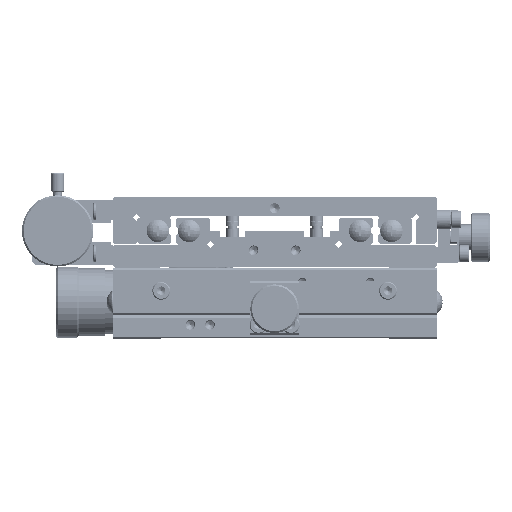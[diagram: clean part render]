
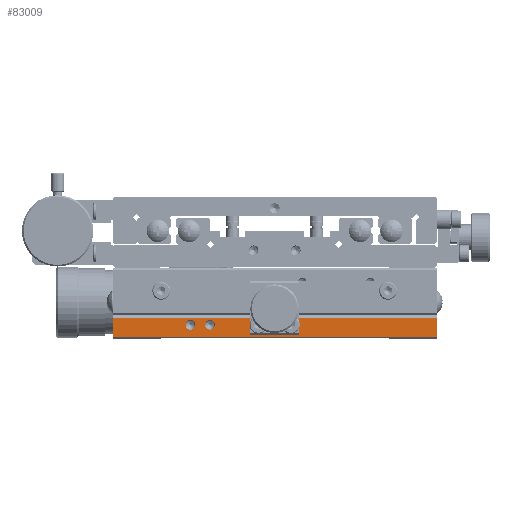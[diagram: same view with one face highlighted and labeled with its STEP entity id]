
A CAD part, left-side view. The second image highlights one B-rep face of the part: STEP entity #83009.
In plain terms, the highlighted planar face has unit normal (-1, 0, 0).
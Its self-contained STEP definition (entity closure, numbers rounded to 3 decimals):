
#965 = VERTEX_POINT ( 'NONE', #96711 ) ;
#969 = EDGE_CURVE ( 'NONE', #965, #970, #96710, .T. ) ;
#970 = VERTEX_POINT ( 'NONE', #96659 ) ;
#1372 = VERTEX_POINT ( 'NONE', #96957 ) ;
#1377 = EDGE_CURVE ( 'NONE', #1372, #1378, #96915, .T. ) ;
#1378 = VERTEX_POINT ( 'NONE', #96917 ) ;
#2498 = VERTEX_POINT ( 'NONE', #99720 ) ;
#2656 = VERTEX_POINT ( 'NONE', #100060 ) ;
#2660 = EDGE_CURVE ( 'NONE', #2656, #2498, #99975, .T. ) ;
#40680 = DIRECTION ( 'NONE',  ( -1., 0., 0. ) ) ;
#40683 = CARTESIAN_POINT ( 'NONE',  ( -50., 26., 4.5 ) ) ;
#40685 = AXIS2_PLACEMENT_3D ( 'NONE', #40683, #40680, #40833 ) ;
#40687 = CIRCLE ( 'NONE', #40685, 1.5 ) ;
#40704 = DIRECTION ( 'NONE',  ( 0., 1., 0. ) ) ;
#40706 = DIRECTION ( 'NONE',  ( -1., 0., 0. ) ) ;
#40708 = CARTESIAN_POINT ( 'NONE',  ( -50., 20., 4.5 ) ) ;
#40710 = AXIS2_PLACEMENT_3D ( 'NONE', #40708, #40706, #40704 ) ;
#40712 = CIRCLE ( 'NONE', #40710, 1.5 ) ;
#40833 = DIRECTION ( 'NONE',  ( 0., 1., 0. ) ) ;
#82709 = DIRECTION ( 'NONE',  ( 0., -1., 0. ) ) ;
#82711 = VECTOR ( 'NONE', #82709, 1000. ) ;
#82712 = CARTESIAN_POINT ( 'NONE',  ( -50., 50., 6.5 ) ) ;
#82715 = LINE ( 'NONE', #82712, #82711 ) ;
#82727 = CARTESIAN_POINT ( 'NONE',  ( -50., 50., 6.5 ) ) ;
#82858 = DIRECTION ( 'NONE',  ( 0., -1., 0. ) ) ;
#82860 = VECTOR ( 'NONE', #82858, 1000. ) ;
#82862 = CARTESIAN_POINT ( 'NONE',  ( -50., 50., 6.5 ) ) ;
#82864 = LINE ( 'NONE', #82862, #82860 ) ;
#82872 = CARTESIAN_POINT ( 'NONE',  ( -50., -7.5, 6.5 ) ) ;
#82907 = CARTESIAN_POINT ( 'NONE',  ( -50., 7.5, 6.5 ) ) ;
#82909 = ORIENTED_EDGE ( 'NONE', *, *, #82912, .F. ) ;
#82912 = EDGE_CURVE ( 'NONE', #970, #965, #40712, .T. ) ;
#82914 = ORIENTED_EDGE ( 'NONE', *, *, #969, .F. ) ;
#82918 = EDGE_LOOP ( 'NONE', ( #82920, #82924 ) ) ;
#82920 = ORIENTED_EDGE ( 'NONE', *, *, #82922, .F. ) ;
#82922 = EDGE_CURVE ( 'NONE', #1378, #1372, #40687, .T. ) ;
#82924 = ORIENTED_EDGE ( 'NONE', *, *, #1377, .F. ) ;
#82974 = VERTEX_POINT ( 'NONE', #82727 ) ;
#82976 = CARTESIAN_POINT ( 'NONE',  ( -50., -7.5, 1.5 ) ) ;
#82979 = EDGE_CURVE ( 'NONE', #82974, #82983, #82715, .T. ) ;
#82980 = DIRECTION ( 'NONE',  ( 0., 0., 1. ) ) ;
#82982 = VECTOR ( 'NONE', #82980, 1000. ) ;
#82983 = VERTEX_POINT ( 'NONE', #82907 ) ;
#82985 = CARTESIAN_POINT ( 'NONE',  ( -50., -7.5, 1.5 ) ) ;
#82988 = LINE ( 'NONE', #82985, #82982 ) ;
#82990 = VERTEX_POINT ( 'NONE', #82872 ) ;
#82992 = DIRECTION ( 'NONE',  ( 0., -1., 0. ) ) ;
#82993 = EDGE_CURVE ( 'NONE', #82990, #2656, #82864, .T. ) ;
#82994 = DIRECTION ( 'NONE',  ( -1., 0., 0. ) ) ;
#82996 = AXIS2_PLACEMENT_3D ( 'NONE', #82999, #82994, #82992 ) ;
#82999 = CARTESIAN_POINT ( 'NONE',  ( -50., 50., 6.5 ) ) ;
#83002 = PLANE ( 'NONE',  #82996 ) ;
#83004 = FACE_BOUND ( 'NONE', #82918, .T. ) ;
#83006 = FACE_BOUND ( 'NONE', #88001, .T. ) ;
#83009 = ADVANCED_FACE ( 'NONE', ( #83008, #83006, #83004 ), #83002, .T. ) ;
#83008 = FACE_OUTER_BOUND ( 'NONE', #83014, .T. ) ;
#83014 = EDGE_LOOP ( 'NONE', ( #83015, #83019, #87880, #87886, #87890, #87991, #87995, #87996 ) ) ;
#83015 = ORIENTED_EDGE ( 'NONE', *, *, #83016, .F. ) ;
#83016 = EDGE_CURVE ( 'NONE', #83017, #82990, #82988, .T. ) ;
#83017 = VERTEX_POINT ( 'NONE', #82976 ) ;
#83019 = ORIENTED_EDGE ( 'NONE', *, *, #87732, .F. ) ;
#87732 = EDGE_CURVE ( 'NONE', #87877, #83017, #103942, .T. ) ;
#87877 = VERTEX_POINT ( 'NONE', #104025 ) ;
#87880 = ORIENTED_EDGE ( 'NONE', *, *, #87883, .T. ) ;
#87883 = EDGE_CURVE ( 'NONE', #87877, #82983, #104024, .T. ) ;
#87886 = ORIENTED_EDGE ( 'NONE', *, *, #82979, .F. ) ;
#87890 = ORIENTED_EDGE ( 'NONE', *, *, #87893, .T. ) ;
#87893 = EDGE_CURVE ( 'NONE', #82974, #87897, #104020, .T. ) ;
#87897 = VERTEX_POINT ( 'NONE', #104016 ) ;
#87991 = ORIENTED_EDGE ( 'NONE', *, *, #87993, .T. ) ;
#87993 = EDGE_CURVE ( 'NONE', #87897, #2498, #104057, .T. ) ;
#87995 = ORIENTED_EDGE ( 'NONE', *, *, #2660, .F. ) ;
#87996 = ORIENTED_EDGE ( 'NONE', *, *, #82993, .F. ) ;
#88001 = EDGE_LOOP ( 'NONE', ( #82909, #82914 ) ) ;
#96659 = CARTESIAN_POINT ( 'NONE',  ( -50., 21.5, 4.5 ) ) ;
#96660 = DIRECTION ( 'NONE',  ( 0., 1., 0. ) ) ;
#96707 = DIRECTION ( 'NONE',  ( -1., 0., 0. ) ) ;
#96708 = CARTESIAN_POINT ( 'NONE',  ( -50., 20., 4.5 ) ) ;
#96709 = AXIS2_PLACEMENT_3D ( 'NONE', #96708, #96707, #96660 ) ;
#96710 = CIRCLE ( 'NONE', #96709, 1.5 ) ;
#96711 = CARTESIAN_POINT ( 'NONE',  ( -50., 18.5, 4.5 ) ) ;
#96909 = DIRECTION ( 'NONE',  ( 0., 1., 0. ) ) ;
#96910 = DIRECTION ( 'NONE',  ( -1., 0., 0. ) ) ;
#96912 = CARTESIAN_POINT ( 'NONE',  ( -50., 26., 4.5 ) ) ;
#96913 = AXIS2_PLACEMENT_3D ( 'NONE', #96912, #96910, #96909 ) ;
#96915 = CIRCLE ( 'NONE', #96913, 1.5 ) ;
#96917 = CARTESIAN_POINT ( 'NONE',  ( -50., 27.5, 4.5 ) ) ;
#96957 = CARTESIAN_POINT ( 'NONE',  ( -50., 24.5, 4.5 ) ) ;
#99720 = CARTESIAN_POINT ( 'NONE',  ( -50., -50., 0.8 ) ) ;
#99972 = DIRECTION ( 'NONE',  ( 0., 0., -1. ) ) ;
#99973 = VECTOR ( 'NONE', #99972, 1000. ) ;
#99974 = CARTESIAN_POINT ( 'NONE',  ( -50., -50., 6.5 ) ) ;
#99975 = LINE ( 'NONE', #99974, #99973 ) ;
#100060 = CARTESIAN_POINT ( 'NONE',  ( -50., -50., 6.5 ) ) ;
#103939 = DIRECTION ( 'NONE',  ( 0., -1., 0. ) ) ;
#103940 = VECTOR ( 'NONE', #103939, 1000. ) ;
#103941 = CARTESIAN_POINT ( 'NONE',  ( -50., 7.5, 1.5 ) ) ;
#103942 = LINE ( 'NONE', #103941, #103940 ) ;
#104016 = CARTESIAN_POINT ( 'NONE',  ( -50., 50., 0.8 ) ) ;
#104017 = DIRECTION ( 'NONE',  ( 0., 0., -1. ) ) ;
#104018 = VECTOR ( 'NONE', #104017, 1000. ) ;
#104019 = CARTESIAN_POINT ( 'NONE',  ( -50., 50., 6.5 ) ) ;
#104020 = LINE ( 'NONE', #104019, #104018 ) ;
#104021 = DIRECTION ( 'NONE',  ( 0., 0., 1. ) ) ;
#104022 = VECTOR ( 'NONE', #104021, 1000. ) ;
#104023 = CARTESIAN_POINT ( 'NONE',  ( -50., 7.5, 1.5 ) ) ;
#104024 = LINE ( 'NONE', #104023, #104022 ) ;
#104025 = CARTESIAN_POINT ( 'NONE',  ( -50., 7.5, 1.5 ) ) ;
#104054 = DIRECTION ( 'NONE',  ( 0., -1., 0. ) ) ;
#104055 = VECTOR ( 'NONE', #104054, 1000. ) ;
#104056 = CARTESIAN_POINT ( 'NONE',  ( -50., 50., 0.8 ) ) ;
#104057 = LINE ( 'NONE', #104056, #104055 ) ;
